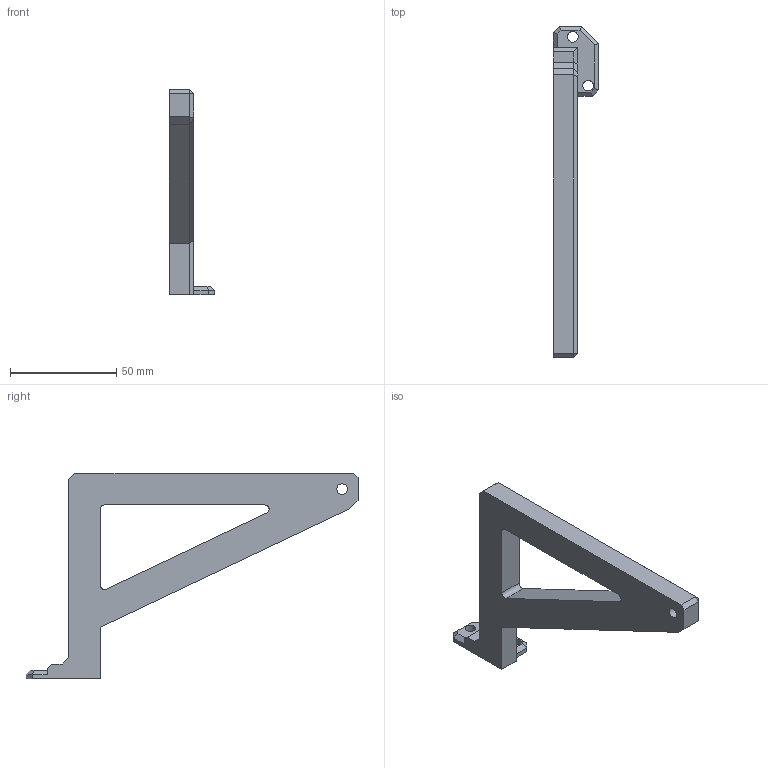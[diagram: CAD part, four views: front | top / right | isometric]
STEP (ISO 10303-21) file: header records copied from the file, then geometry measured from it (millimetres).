
FILE_DESCRIPTION(/* description */ ('STEP AP242 Edition 2','CAx-IF Rec.Pracs.---Representation and Presentation of Product Manufacturing Information (PMI)---4.0---2014-10-13','CAx-IF Rec.Pracs.---3D Tessellated Geometry---0.4---2014-09-14','2;1','CAx-IF Rec.Pracs.---User Defined Attributes---1.5---2016-08-15'),/* implementation_level */ '2;1');
FILE_NAME(/* name */ 'Part Studio 1 - Wheel Strut L',/* time_stamp */ '2026-04-09T20:19:24Z',/* author */ (''),/* organization */ (''),/* preprocessor_version */ 'ST-DEVELOPER v20',/* originating_system */ 'ONSHAPE BY PTC INC, 1.213',/* authorisation */ ' ');
FILE_SCHEMA (('AP242_MANAGED_MODEL_BASED_3D_ENGINEERING_MIM_LF { 1 0 10303 442 3 1 4 }'));
Length unit declared in the file: metre
Products named in the file (1): Wheel Strut L
Bounding box: 21.5 x 156.23 x 96.86 mm (x, y, z)
Volume: 58553.5 mm3; surface area: 18161.4 mm2
Topology: 1 solids, 1 shells, 50 faces, 122 edges, 75 vertices
Faces by surface type: plane 43, cylinder 7
Full cylindrical faces by diameter (mm): 5 x4
Entity records: 1446 total; most frequent: CARTESIAN_POINT 244, ORIENTED_EDGE 236, DIRECTION 234, EDGE_CURVE 118, LINE 104, VECTOR 104, VERTEX_POINT 75, AXIS2_PLACEMENT_3D 65
